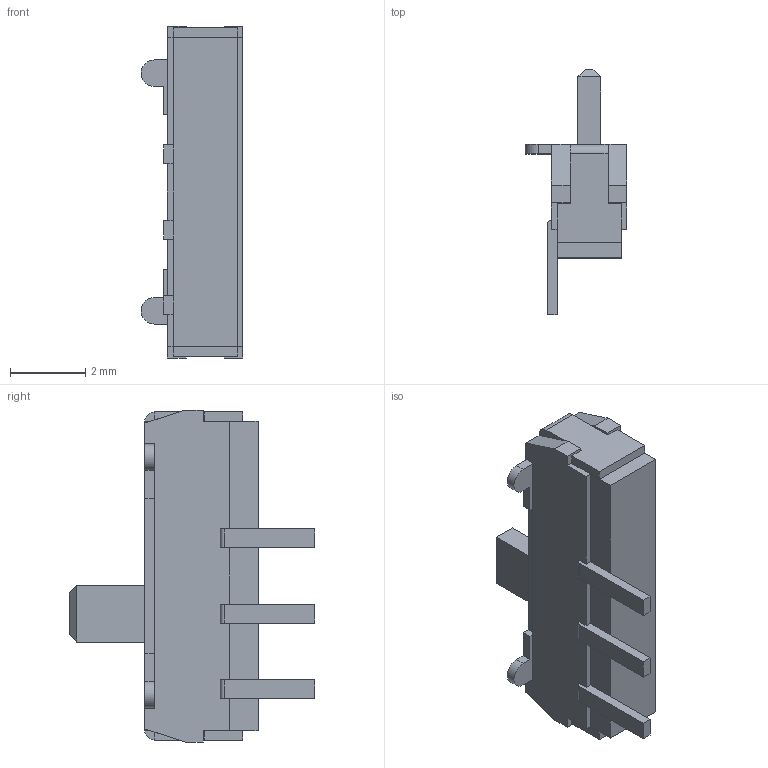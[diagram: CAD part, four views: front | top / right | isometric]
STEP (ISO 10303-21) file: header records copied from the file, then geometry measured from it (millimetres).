
FILE_DESCRIPTION((''),'2;1');
FILE_NAME('MMS124_ASM','2019-08-19T',('Administrator'),(''),'PRO/ENGINEER BY PARAMETRIC TECHNOLOGY CORPORATION, 2010100','PRO/ENGINEER BY PARAMETRIC TECHNOLOGY CORPORATION, 2010100','');
FILE_SCHEMA(('CONFIG_CONTROL_DESIGN','SHAPE_APPEARANCE_LAYERS_GROUPS'));
Length unit declared in the file: millimetre
Products named in the file (5): 11-51211; 11-51220-; 18-51208-; 133-2207-; MMS124_ASM
Assembly tree (4 placements, depth 2):
  MMS124_ASM
    11-51211
    11-51220-
    18-51208-
    133-2207-
Bounding box: 2.7 x 6.5 x 8.8 mm (x, y, z)
Volume: 39.7 mm3; surface area: 223.7 mm2
Topology: 4 solids, 4 shells, 317 faces, 820 edges, 504 vertices
Faces by surface type: plane 233, cylinder 47, bspline 29, sphere 8
Entity records: 13065 total; most frequent: CARTESIAN_POINT 2771, ORIENTED_EDGE 1624, DIRECTION 1404, PRESENTATION_STYLE_ASSIGNMENT 835, STYLED_ITEM 816, CURVE_STYLE 812, EDGE_CURVE 812, VECTOR 678
